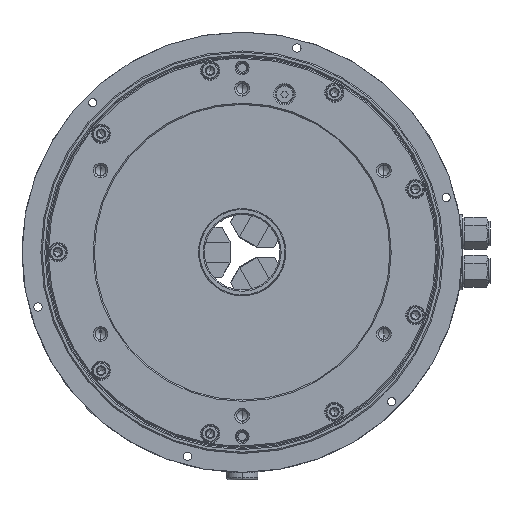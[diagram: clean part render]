
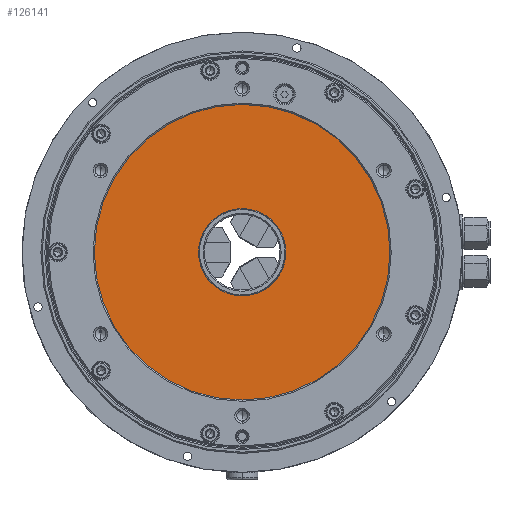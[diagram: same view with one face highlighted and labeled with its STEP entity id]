
A CAD part, left-side view. The second image highlights one B-rep face of the part: STEP entity #126141.
In plain terms, the highlighted planar face has unit normal (-1, 0, 0).
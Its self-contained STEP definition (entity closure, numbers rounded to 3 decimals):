
#3946 = PLANE ( 'NONE',  #16194 ) ;
#7832 = CARTESIAN_POINT ( 'NONE',  ( -6., 0., 0. ) ) ;
#13938 = CARTESIAN_POINT ( 'NONE',  ( -6., 0., -34.7 ) ) ;
#15769 = AXIS2_PLACEMENT_3D ( 'NONE', #7832, #116972, #127818 ) ;
#16194 = AXIS2_PLACEMENT_3D ( 'NONE', #27957, #113122, #145639 ) ;
#18855 = AXIS2_PLACEMENT_3D ( 'NONE', #56900, #24330, #152078 ) ;
#24330 = DIRECTION ( 'NONE',  ( -1., 0., 0. ) ) ;
#27957 = CARTESIAN_POINT ( 'NONE',  ( -6., 34.7, 0. ) ) ;
#29367 = EDGE_CURVE ( 'NONE', #88194, #67039, #43081, .T. ) ;
#33724 = AXIS2_PLACEMENT_3D ( 'NONE', #100469, #125226, #53968 ) ;
#40047 = EDGE_LOOP ( 'NONE', ( #89100, #80806 ) ) ;
#43081 = CIRCLE ( 'NONE', #15769, 117.5 ) ;
#50425 = EDGE_CURVE ( 'NONE', #117002, #96140, #73589, .T. ) ;
#53968 = DIRECTION ( 'NONE',  ( 0., 0., 1. ) ) ;
#56900 = CARTESIAN_POINT ( 'NONE',  ( -6., 0., 0. ) ) ;
#60853 = CIRCLE ( 'NONE', #18855, 34.7 ) ;
#67039 = VERTEX_POINT ( 'NONE', #92314 ) ;
#72883 = CARTESIAN_POINT ( 'NONE',  ( -6., 0., 0. ) ) ;
#73589 = CIRCLE ( 'NONE', #33724, 34.7 ) ;
#74398 = FACE_BOUND ( 'NONE', #120601, .T. ) ;
#78810 = CARTESIAN_POINT ( 'NONE',  ( -6., 0., 117.5 ) ) ;
#80806 = ORIENTED_EDGE ( 'NONE', *, *, #147766, .T. ) ;
#82421 = AXIS2_PLACEMENT_3D ( 'NONE', #72883, #134052, #132525 ) ;
#83005 = EDGE_CURVE ( 'NONE', #96140, #117002, #60853, .T. ) ;
#84905 = CARTESIAN_POINT ( 'NONE',  ( -6., 0., 34.7 ) ) ;
#88194 = VERTEX_POINT ( 'NONE', #78810 ) ;
#89100 = ORIENTED_EDGE ( 'NONE', *, *, #29367, .T. ) ;
#92314 = CARTESIAN_POINT ( 'NONE',  ( -6., 0., -117.5 ) ) ;
#96140 = VERTEX_POINT ( 'NONE', #84905 ) ;
#100469 = CARTESIAN_POINT ( 'NONE',  ( -6., 0., 0. ) ) ;
#113122 = DIRECTION ( 'NONE',  ( 1., 0., 0. ) ) ;
#115865 = ORIENTED_EDGE ( 'NONE', *, *, #50425, .F. ) ;
#116972 = DIRECTION ( 'NONE',  ( -1., 0., 0. ) ) ;
#117002 = VERTEX_POINT ( 'NONE', #13938 ) ;
#120601 = EDGE_LOOP ( 'NONE', ( #145522, #115865 ) ) ;
#125226 = DIRECTION ( 'NONE',  ( -1., 0., 0. ) ) ;
#126141 = ADVANCED_FACE ( 'NONE', ( #74398, #136343 ), #3946, .F. ) ;
#127818 = DIRECTION ( 'NONE',  ( 0., 0., 1. ) ) ;
#132525 = DIRECTION ( 'NONE',  ( 0., 0., 1. ) ) ;
#134052 = DIRECTION ( 'NONE',  ( -1., 0., 0. ) ) ;
#136343 = FACE_OUTER_BOUND ( 'NONE', #40047, .T. ) ;
#145522 = ORIENTED_EDGE ( 'NONE', *, *, #83005, .F. ) ;
#145639 = DIRECTION ( 'NONE',  ( 0., 0., -1. ) ) ;
#147766 = EDGE_CURVE ( 'NONE', #67039, #88194, #149264, .T. ) ;
#149264 = CIRCLE ( 'NONE', #82421, 117.5 ) ;
#152078 = DIRECTION ( 'NONE',  ( 0., 0., 1. ) ) ;
